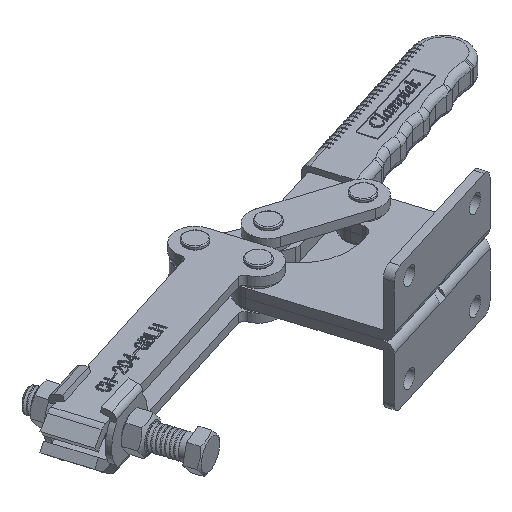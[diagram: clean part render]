
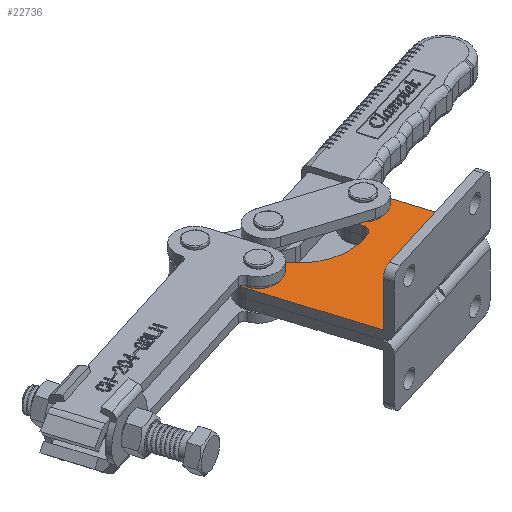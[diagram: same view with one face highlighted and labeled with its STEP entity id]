
A CAD part, isometric view. The second image highlights one B-rep face of the part: STEP entity #22736.
In plain terms, the highlighted planar face has unit normal (0, 0, 1).
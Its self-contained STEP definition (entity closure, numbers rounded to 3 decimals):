
#644=FACE_BOUND('',#3728,.T.);
#645=FACE_BOUND('',#3729,.T.);
#749=PLANE('',#24357);
#1271=B_SPLINE_CURVE_WITH_KNOTS('',3,(#30899,#30900,#30901,#30902,#30903,
#30904,#30905,#30906,#30907,#30908),.UNSPECIFIED.,.F.,.F.,(4,2,2,2,4),(-0.126,
-0.091,-0.059,-0.029,0.),
 .UNSPECIFIED.);
#1273=B_SPLINE_CURVE_WITH_KNOTS('',3,(#30926,#30927,#30928,#30929,#30930,
#30931,#30932,#30933,#30934,#30935),.UNSPECIFIED.,.F.,.F.,(4,2,2,2,4),(-0.508,
-0.479,-0.447,-0.416,-0.382),
 .UNSPECIFIED.);
#2389=FACE_OUTER_BOUND('',#3727,.T.);
#3727=EDGE_LOOP('',(#15617,#15618,#15619,#15620,#15621,#15622,#15623,#15624,
#15625,#15626,#15627,#15628,#15629,#15630));
#3728=EDGE_LOOP('',(#15631,#15632));
#3729=EDGE_LOOP('',(#15633,#15634));
#5144=LINE('',#30947,#7097);
#5147=LINE('',#30952,#7100);
#5148=LINE('',#30955,#7101);
#5154=LINE('',#30981,#7107);
#5157=LINE('',#30985,#7110);
#5163=LINE('',#30996,#7116);
#5164=LINE('',#31000,#7117);
#5165=LINE('',#31007,#7118);
#7097=VECTOR('',#25966,1000.);
#7100=VECTOR('',#25971,1000.);
#7101=VECTOR('',#25974,1000.);
#7107=VECTOR('',#26002,1000.);
#7110=VECTOR('',#26005,1000.);
#7116=VECTOR('',#26015,1000.);
#7117=VECTOR('',#26018,1000.);
#7118=VECTOR('',#26025,1000.);
#9035=CIRCLE('',#24316,4.75);
#9036=CIRCLE('',#24317,4.75);
#9039=CIRCLE('',#24321,4.75);
#9040=CIRCLE('',#24322,4.75);
#9060=CIRCLE('',#24358,11.);
#9061=CIRCLE('',#24359,4.5);
#9062=CIRCLE('',#24360,30.);
#9063=CIRCLE('',#24361,11.);
#9604=VERTEX_POINT('',#30844);
#9605=VERTEX_POINT('',#30845);
#9608=VERTEX_POINT('',#30854);
#9609=VERTEX_POINT('',#30855);
#9622=VERTEX_POINT('',#30896);
#9623=VERTEX_POINT('',#30898);
#9626=VERTEX_POINT('',#30923);
#9627=VERTEX_POINT('',#30925);
#9632=VERTEX_POINT('',#30950);
#9633=VERTEX_POINT('',#30954);
#9642=VERTEX_POINT('',#30980);
#9643=VERTEX_POINT('',#30983);
#9646=VERTEX_POINT('',#30995);
#9647=VERTEX_POINT('',#30997);
#9648=VERTEX_POINT('',#30999);
#9649=VERTEX_POINT('',#31001);
#9650=VERTEX_POINT('',#31003);
#9651=VERTEX_POINT('',#31005);
#11918=EDGE_CURVE('',#9604,#9605,#9035,.T.);
#11919=EDGE_CURVE('',#9605,#9604,#9036,.T.);
#11923=EDGE_CURVE('',#9608,#9609,#9039,.T.);
#11924=EDGE_CURVE('',#9609,#9608,#9040,.T.);
#11940=EDGE_CURVE('',#9622,#9623,#1271,.T.);
#11944=EDGE_CURVE('',#9626,#9627,#1273,.T.);
#11950=EDGE_CURVE('',#9626,#9623,#5144,.T.);
#11953=EDGE_CURVE('',#9622,#9632,#5147,.T.);
#11954=EDGE_CURVE('',#9633,#9627,#5148,.T.);
#11966=EDGE_CURVE('',#9642,#9633,#5154,.T.);
#11969=EDGE_CURVE('',#9632,#9643,#5157,.T.);
#11975=EDGE_CURVE('',#9643,#9646,#5163,.T.);
#11976=EDGE_CURVE('',#9647,#9646,#9060,.T.);
#11977=EDGE_CURVE('',#9647,#9648,#5164,.T.);
#11978=EDGE_CURVE('',#9648,#9649,#9061,.T.);
#11979=EDGE_CURVE('',#9649,#9650,#9062,.T.);
#11980=EDGE_CURVE('',#9651,#9650,#9063,.T.);
#11981=EDGE_CURVE('',#9651,#9642,#5165,.T.);
#15617=ORIENTED_EDGE('',*,*,#11954,.T.);
#15618=ORIENTED_EDGE('',*,*,#11944,.F.);
#15619=ORIENTED_EDGE('',*,*,#11950,.T.);
#15620=ORIENTED_EDGE('',*,*,#11940,.F.);
#15621=ORIENTED_EDGE('',*,*,#11953,.T.);
#15622=ORIENTED_EDGE('',*,*,#11969,.T.);
#15623=ORIENTED_EDGE('',*,*,#11975,.T.);
#15624=ORIENTED_EDGE('',*,*,#11976,.F.);
#15625=ORIENTED_EDGE('',*,*,#11977,.T.);
#15626=ORIENTED_EDGE('',*,*,#11978,.T.);
#15627=ORIENTED_EDGE('',*,*,#11979,.T.);
#15628=ORIENTED_EDGE('',*,*,#11980,.F.);
#15629=ORIENTED_EDGE('',*,*,#11981,.T.);
#15630=ORIENTED_EDGE('',*,*,#11966,.T.);
#15631=ORIENTED_EDGE('',*,*,#11923,.T.);
#15632=ORIENTED_EDGE('',*,*,#11924,.T.);
#15633=ORIENTED_EDGE('',*,*,#11918,.T.);
#15634=ORIENTED_EDGE('',*,*,#11919,.T.);
#22736=ADVANCED_FACE('',(#2389,#644,#645),#749,.T.);
#24316=AXIS2_PLACEMENT_3D('',#30846,#25904,#25905);
#24317=AXIS2_PLACEMENT_3D('',#30847,#25906,#25907);
#24321=AXIS2_PLACEMENT_3D('',#30856,#25915,#25916);
#24322=AXIS2_PLACEMENT_3D('',#30857,#25917,#25918);
#24357=AXIS2_PLACEMENT_3D('',#30994,#26013,#26014);
#24358=AXIS2_PLACEMENT_3D('',#30998,#26016,#26017);
#24359=AXIS2_PLACEMENT_3D('',#31002,#26019,#26020);
#24360=AXIS2_PLACEMENT_3D('',#31004,#26021,#26022);
#24361=AXIS2_PLACEMENT_3D('',#31006,#26023,#26024);
#25904=DIRECTION('center_axis',(0.,0.,-1.));
#25905=DIRECTION('ref_axis',(-1.,0.,0.));
#25906=DIRECTION('center_axis',(0.,0.,-1.));
#25907=DIRECTION('ref_axis',(-1.,0.,0.));
#25915=DIRECTION('center_axis',(0.,0.,-1.));
#25916=DIRECTION('ref_axis',(-1.,0.,0.));
#25917=DIRECTION('center_axis',(0.,0.,-1.));
#25918=DIRECTION('ref_axis',(-1.,0.,0.));
#25966=DIRECTION('',(1.,0.,0.));
#25971=DIRECTION('',(0.,-1.,0.));
#25974=DIRECTION('',(0.,1.,0.));
#26002=DIRECTION('',(1.,0.,0.));
#26005=DIRECTION('',(1.,0.,0.));
#26013=DIRECTION('center_axis',(0.,0.,1.));
#26014=DIRECTION('ref_axis',(1.,0.,0.));
#26015=DIRECTION('',(0.,1.,0.));
#26016=DIRECTION('center_axis',(0.,0.,-1.));
#26017=DIRECTION('ref_axis',(-1.,0.,0.));
#26018=DIRECTION('',(0.,-1.,0.));
#26019=DIRECTION('center_axis',(0.,0.,-1.));
#26020=DIRECTION('ref_axis',(-1.,0.,0.));
#26021=DIRECTION('center_axis',(0.,0.,-1.));
#26022=DIRECTION('ref_axis',(-1.,0.,0.));
#26023=DIRECTION('center_axis',(0.,0.,-1.));
#26024=DIRECTION('ref_axis',(-1.,0.,0.));
#26025=DIRECTION('',(0.,-1.,0.));
#30844=CARTESIAN_POINT('',(67.25,52.25,5.));
#30845=CARTESIAN_POINT('',(76.75,52.25,5.));
#30846=CARTESIAN_POINT('Origin',(72.,52.25,5.));
#30847=CARTESIAN_POINT('Origin',(72.,52.25,5.));
#30854=CARTESIAN_POINT('',(6.25,68.,5.));
#30855=CARTESIAN_POINT('',(15.75,68.,5.));
#30856=CARTESIAN_POINT('Origin',(11.,68.,5.));
#30857=CARTESIAN_POINT('Origin',(11.,68.,5.));
#30896=CARTESIAN_POINT('',(44.,8.101,5.));
#30898=CARTESIAN_POINT('',(43.2,9.,5.));
#30899=CARTESIAN_POINT('Ctrl Pts',(44.,8.101,5.));
#30900=CARTESIAN_POINT('Ctrl Pts',(44.,8.217,5.));
#30901=CARTESIAN_POINT('Ctrl Pts',(43.975,8.354,5.));
#30902=CARTESIAN_POINT('Ctrl Pts',(43.894,8.564,5.));
#30903=CARTESIAN_POINT('Ctrl Pts',(43.826,8.674,5.));
#30904=CARTESIAN_POINT('Ctrl Pts',(43.684,8.827,5.));
#30905=CARTESIAN_POINT('Ctrl Pts',(43.586,8.897,5.));
#30906=CARTESIAN_POINT('Ctrl Pts',(43.407,8.976,5.));
#30907=CARTESIAN_POINT('Ctrl Pts',(43.295,9.,5.));
#30908=CARTESIAN_POINT('Ctrl Pts',(43.2,9.,5.));
#30923=CARTESIAN_POINT('',(39.8,9.,5.));
#30925=CARTESIAN_POINT('',(39.,8.101,5.));
#30926=CARTESIAN_POINT('Ctrl Pts',(39.8,9.,5.));
#30927=CARTESIAN_POINT('Ctrl Pts',(39.702,9.,5.));
#30928=CARTESIAN_POINT('Ctrl Pts',(39.587,8.975,5.));
#30929=CARTESIAN_POINT('Ctrl Pts',(39.403,8.891,5.));
#30930=CARTESIAN_POINT('Ctrl Pts',(39.304,8.816,5.));
#30931=CARTESIAN_POINT('Ctrl Pts',(39.164,8.66,5.));
#30932=CARTESIAN_POINT('Ctrl Pts',(39.1,8.552,5.));
#30933=CARTESIAN_POINT('Ctrl Pts',(39.023,8.347,5.));
#30934=CARTESIAN_POINT('Ctrl Pts',(39.,8.214,5.));
#30935=CARTESIAN_POINT('Ctrl Pts',(39.,8.101,5.));
#30947=CARTESIAN_POINT('',(11.,9.,5.));
#30950=CARTESIAN_POINT('',(44.,5.,5.));
#30952=CARTESIAN_POINT('',(44.,68.,5.));
#30954=CARTESIAN_POINT('',(39.,5.,5.));
#30955=CARTESIAN_POINT('',(39.,68.,5.));
#30980=CARTESIAN_POINT('',(0.,5.,5.));
#30981=CARTESIAN_POINT('',(11.,5.,5.));
#30983=CARTESIAN_POINT('',(83.,5.,5.));
#30985=CARTESIAN_POINT('',(11.,5.,5.));
#30994=CARTESIAN_POINT('Origin',(11.,68.,5.));
#30995=CARTESIAN_POINT('',(83.,52.25,5.));
#30996=CARTESIAN_POINT('',(83.,5.,5.));
#30997=CARTESIAN_POINT('',(61.,52.25,5.));
#30998=CARTESIAN_POINT('Origin',(72.,52.25,5.));
#30999=CARTESIAN_POINT('',(61.,46.631,5.));
#31000=CARTESIAN_POINT('',(61.,52.25,5.));
#31001=CARTESIAN_POINT('',(57.324,42.207,5.));
#31002=CARTESIAN_POINT('Origin',(56.5,46.631,5.));
#31003=CARTESIAN_POINT('',(21.934,69.2,5.));
#31004=CARTESIAN_POINT('Origin',(51.83,71.7,5.));
#31005=CARTESIAN_POINT('',(0.,68.,5.));
#31006=CARTESIAN_POINT('Origin',(11.,68.,5.));
#31007=CARTESIAN_POINT('',(0.,5.,5.));
